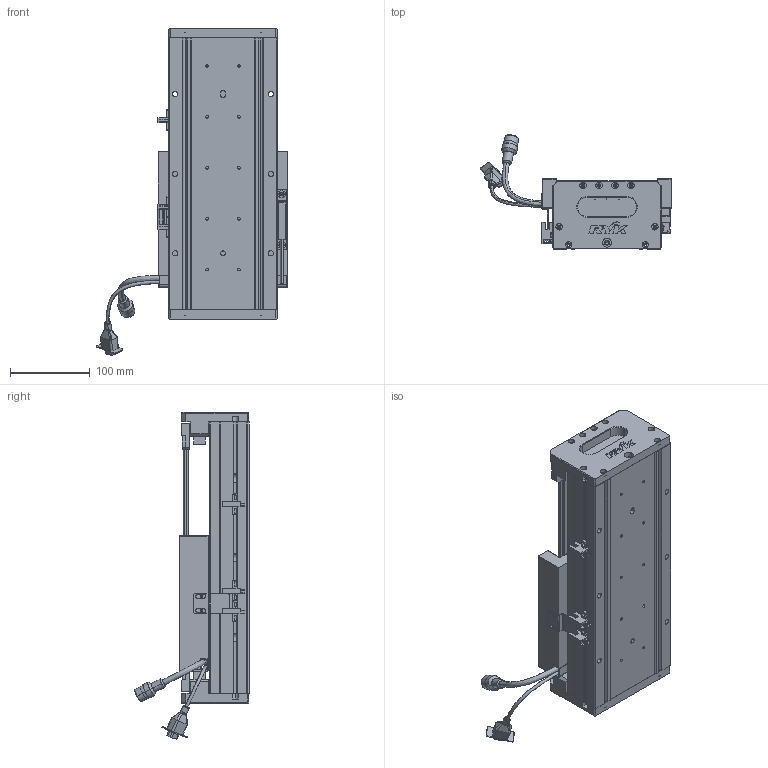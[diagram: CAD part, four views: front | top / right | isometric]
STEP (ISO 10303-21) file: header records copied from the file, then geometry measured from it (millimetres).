
FILE_DESCRIPTION (( 'STEP AP203' ), '1' );
FILE_NAME ('Z2-RY140D-1-L500-B-K.SLDASM_0100.step', '2021-05-17T07:44:27', ( '盈信电脑' ), ( '东莞市道滘镇水果街19号' ), 'SwSTEP 2.0', 'SolidWorks 2016', '' );
FILE_SCHEMA (( 'CONFIG_CONTROL_DESIGN' ));
Length unit declared in the file: millimetre
Products named in the file (36): PBU_SHEET; COVER-Part-1; 覜茼ん672; 榋妏寠巭燃_暯_M2_2; HOLDER0; LABEL; SCREW-M1.6-3; SCREW-M1.7-1; HARNESS-Part-1; SCREW-M1.6; COVER; PSLH080_PSLF2; SEAL; Z-RY140詩湍狟揤裔; Z2-RY140D-1-L500-B-K.SLDASM_0100; Z2-RY140-L500詩湍100mm遵_0100; 140蚥薯蝶輸; SCREW-M1.7; LABEL-Part-1; Z2-RY140圉猾敕臏賑輸(21遴); Z-RY140詩湍奻揤裔; 140雄赽晤鎢ん堤盄; Z-140詩湍傷裔啣; HARNESS; Z2-RY140-L500直线电机模组底座_0100; SCREW-M1.6-2; HARNESS-Part-2; SEAL-Part-1; SCREW-M1.6-1; SHIELDPLATE; SCALE-Part-1; 080黍杅芛假蚾釱21遴; SCALE-Part-2; SCALE; Z-RY140感应器672光电感应片; 140-Z-臏賑輸盄裔(21遴)
Assembly tree (41 placements, depth 4):
  Z2-RY140D-1-L500-B-K.SLDASM_0100
    Z2-RY140-L500直线电机模组底座_0100
    Z-RY140感应器672光电感应片
    Z2-RY140圉猾敕臏賑輸(21遴)
    覜茼ん672  x3
    Z2-RY140-L500詩湍100mm遵_0100
    PSLH080_PSLF2
      SCALE
        SCALE-Part-1
        SCALE-Part-2
      HARNESS
        HARNESS-Part-1
        HARNESS-Part-2
      LABEL
        LABEL-Part-1
      COVER
        COVER-Part-1
      SEAL
        SEAL-Part-1
      榋妏寠巭燃_暯_M2_2
      SHIELDPLATE
      SCREW-M1.7
      SCREW-M1.7-1
      PBU_SHEET
      SCREW-M1.6
      SCREW-M1.6-1
      SCREW-M1.6-2
      SCREW-M1.6-3
      HOLDER0
    080黍杅芛假蚾釱21遴
    140-Z-臏賑輸盄裔(21遴)
    Z-140詩湍傷裔啣  x2
    Z-RY140詩湍狟揤裔  x2
    Z-RY140詩湍奻揤裔  x2
    140蚥薯蝶輸  x2
    140雄赽晤鎢ん堤盄
Bounding box: 239.84 x 143.77 x 410.88 mm (x, y, z)
Volume: 1971968.4 mm3; surface area: 516022.5 mm2
Topology: 36 solids, 36 shells, 2442 faces, 6290 edges, 3981 vertices
Faces by surface type: plane 1044, cylinder 1028, cone 238, torus 79, bspline 53
Entity records: 67378 total; most frequent: CARTESIAN_POINT 15417, DIRECTION 10238, ORIENTED_EDGE 9812, EDGE_CURVE 4906, AXIS2_PLACEMENT_3D 3738, VERTEX_POINT 3149, LINE 2762, VECTOR 2762
